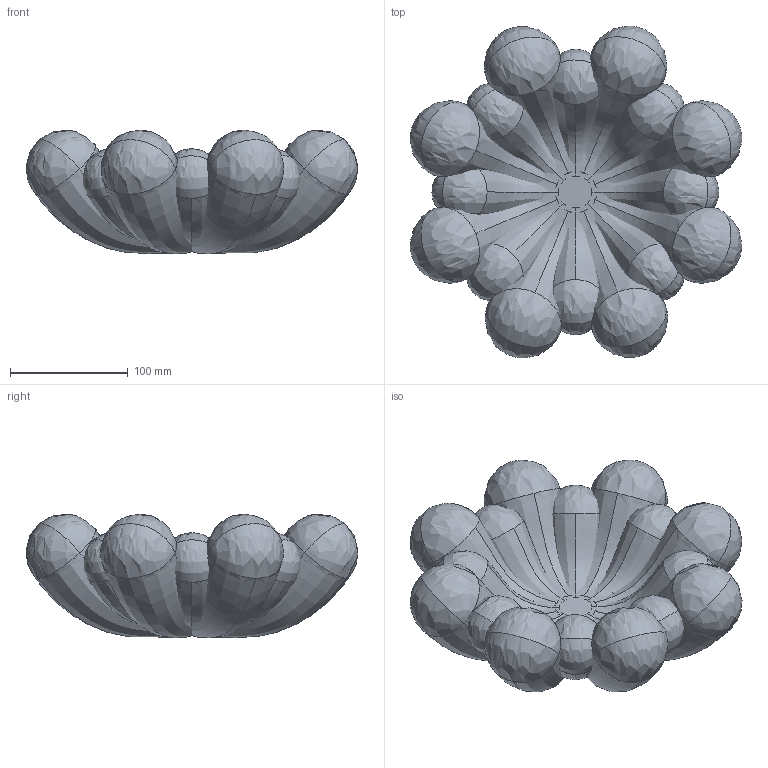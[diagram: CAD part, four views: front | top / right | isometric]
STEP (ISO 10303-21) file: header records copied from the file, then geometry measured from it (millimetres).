
FILE_DESCRIPTION(/* description */ (''),/* implementation_level */ '2;1');
FILE_NAME(/* name */ 'Bloom Tray Medio',/* time_stamp */ '2024-05-13T12:09:29+02:00',/* author */ (''),/* organization */ (''),/* preprocessor_version */ 'ST-DEVELOPER v16.5',/* originating_system */ 'Rhino 7.36',/* authorisation */ '');
FILE_SCHEMA (('CONFIG_CONTROL_DESIGN'));
Length unit declared in the file: millimetre
Products named in the file (1): Document
Bounding box: 281.71 x 282.02 x 104.98 mm (x, y, z)
Volume: 2137513.4 mm3; surface area: 489633 mm2
Topology: 33 solids, 49 shells, 100 faces, 294 edges, 132 vertices
Faces by surface type: bspline 100
Entity records: 10570 total; most frequent: CARTESIAN_POINT 8543, ORIENTED_EDGE 268, PCURVE 268, DEFINITIONAL_REPRESENTATION 268, B_SPLINE_CURVE_WITH_KNOTS 264, SURFACE_CURVE 166, EDGE_CURVE 166, VERTEX_POINT 132
